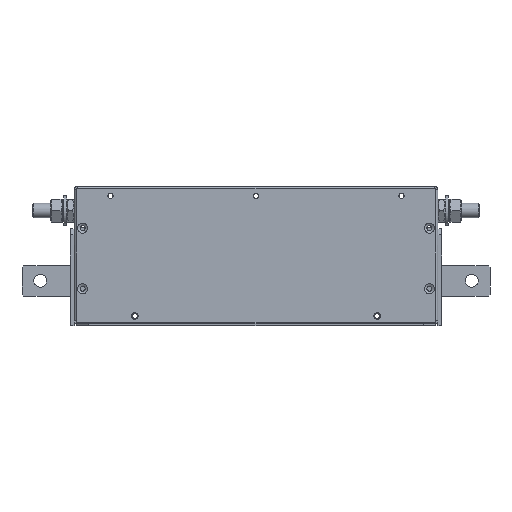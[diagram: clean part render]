
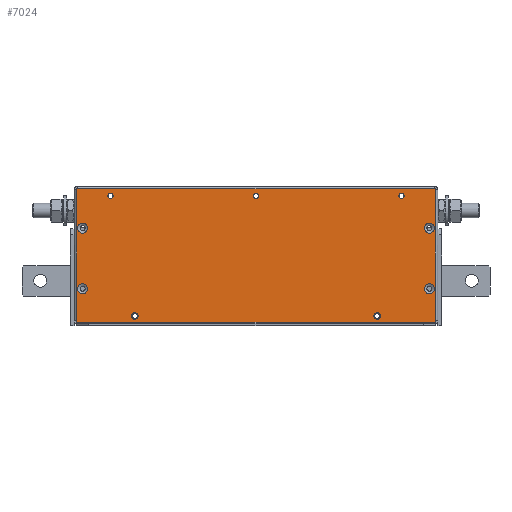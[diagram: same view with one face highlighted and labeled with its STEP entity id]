
A CAD part, front view. The second image highlights one B-rep face of the part: STEP entity #7024.
In plain terms, the highlighted planar face has unit normal (0, -1, 0).
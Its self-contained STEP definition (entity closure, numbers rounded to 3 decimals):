
#6275=CARTESIAN_POINT('',(147.1,-105.0,30.5));
#6276=VERTEX_POINT('',#6275);
#6277=CARTESIAN_POINT('',(143.0,-105.0,30.5));
#6278=DIRECTION('',(0.0,1.0,0.0));
#6279=DIRECTION('',(1.0,0.0,0.0));
#6280=AXIS2_PLACEMENT_3D('',#6277,#6278,#6279);
#6281=CIRCLE('',#6280,4.1);
#6282=EDGE_CURVE('',#6276,#6276,#6281,.T.);
#6323=CARTESIAN_POINT('',(147.1,-105.0,80.5));
#6324=VERTEX_POINT('',#6323);
#6325=CARTESIAN_POINT('',(143.0,-105.0,80.5));
#6326=DIRECTION('',(0.0,1.0,0.0));
#6327=DIRECTION('',(1.0,0.0,0.0));
#6328=AXIS2_PLACEMENT_3D('',#6325,#6326,#6327);
#6329=CIRCLE('',#6328,4.1);
#6330=EDGE_CURVE('',#6324,#6324,#6329,.T.);
#6371=CARTESIAN_POINT('',(-138.9,-105.0,30.5));
#6372=VERTEX_POINT('',#6371);
#6373=CARTESIAN_POINT('',(-143.0,-105.0,30.5));
#6374=DIRECTION('',(0.0,1.0,0.0));
#6375=DIRECTION('',(1.0,0.0,0.0));
#6376=AXIS2_PLACEMENT_3D('',#6373,#6374,#6375);
#6377=CIRCLE('',#6376,4.1);
#6378=EDGE_CURVE('',#6372,#6372,#6377,.T.);
#6419=CARTESIAN_POINT('',(-138.9,-105.0,80.5));
#6420=VERTEX_POINT('',#6419);
#6421=CARTESIAN_POINT('',(-143.0,-105.0,80.5));
#6422=DIRECTION('',(0.0,1.0,0.0));
#6423=DIRECTION('',(1.0,0.0,0.0));
#6424=AXIS2_PLACEMENT_3D('',#6421,#6422,#6423);
#6425=CIRCLE('',#6424,4.1);
#6426=EDGE_CURVE('',#6420,#6420,#6425,.T.);
#6554=CARTESIAN_POINT('',(-102.75,-105.0,8.0));
#6555=VERTEX_POINT('',#6554);
#6556=CARTESIAN_POINT('',(-100.0,-105.0,8.0));
#6557=DIRECTION('',(0.0,1.0,0.0));
#6558=DIRECTION('',(1.0,0.0,0.0));
#6559=AXIS2_PLACEMENT_3D('',#6556,#6557,#6558);
#6560=CIRCLE('',#6559,2.75);
#6561=EDGE_CURVE('',#6555,#6555,#6560,.T.);
#6582=CARTESIAN_POINT('',(-122.15,-105.0,107.0));
#6583=VERTEX_POINT('',#6582);
#6584=CARTESIAN_POINT('',(-120.0,-105.0,107.0));
#6585=DIRECTION('',(0.0,1.0,0.0));
#6586=DIRECTION('',(1.0,0.0,0.0));
#6587=AXIS2_PLACEMENT_3D('',#6584,#6585,#6586);
#6588=CIRCLE('',#6587,2.15);
#6589=EDGE_CURVE('',#6583,#6583,#6588,.T.);
#6648=CARTESIAN_POINT('',(-148.0,-105.0,2.8));
#6649=VERTEX_POINT('',#6648);
#6657=CARTESIAN_POINT('',(-148.0,-105.0,113.0));
#6658=VERTEX_POINT('',#6657);
#6659=CARTESIAN_POINT('',(-148.0,-105.0,113.0));
#6660=DIRECTION('',(0.0,0.0,-1.0));
#6661=VECTOR('',#6660,110.2);
#6662=LINE('',#6659,#6661);
#6663=EDGE_CURVE('',#6658,#6649,#6662,.T.);
#6698=CARTESIAN_POINT('',(102.75,-105.0,8.0));
#6699=VERTEX_POINT('',#6698);
#6700=CARTESIAN_POINT('',(100.0,-105.0,8.0));
#6701=DIRECTION('',(0.0,-1.0,0.0));
#6702=DIRECTION('',(-1.0,0.0,0.0));
#6703=AXIS2_PLACEMENT_3D('',#6700,#6701,#6702);
#6704=CIRCLE('',#6703,2.75);
#6705=EDGE_CURVE('',#6699,#6699,#6704,.T.);
#6726=CARTESIAN_POINT('',(122.15,-105.0,107.0));
#6727=VERTEX_POINT('',#6726);
#6728=CARTESIAN_POINT('',(120.0,-105.0,107.0));
#6729=DIRECTION('',(0.0,-1.0,0.0));
#6730=DIRECTION('',(-1.0,0.0,0.0));
#6731=AXIS2_PLACEMENT_3D('',#6728,#6729,#6730);
#6732=CIRCLE('',#6731,2.15);
#6733=EDGE_CURVE('',#6727,#6727,#6732,.T.);
#6743=CARTESIAN_POINT('',(0.0,-105.0,109.15));
#6744=VERTEX_POINT('',#6743);
#6745=CARTESIAN_POINT('',(0.0,-105.0,107.0));
#6746=DIRECTION('',(0.0,-1.0,0.0));
#6747=DIRECTION('',(-1.0,0.0,0.0));
#6748=AXIS2_PLACEMENT_3D('',#6745,#6746,#6747);
#6749=CIRCLE('',#6748,2.15);
#6750=EDGE_CURVE('',#6744,#6744,#6749,.T.);
#6828=CARTESIAN_POINT('',(148.0,-105.0,113.0));
#6829=VERTEX_POINT('',#6828);
#6836=CARTESIAN_POINT('',(148.0,-105.0,2.8));
#6837=VERTEX_POINT('',#6836);
#6838=CARTESIAN_POINT('',(148.0,-105.0,113.0));
#6839=DIRECTION('',(0.0,0.0,-1.0));
#6840=VECTOR('',#6839,110.2);
#6841=LINE('',#6838,#6840);
#6842=EDGE_CURVE('',#6829,#6837,#6841,.T.);
#6901=CARTESIAN_POINT('',(148.0,-105.0,2.8));
#6902=DIRECTION('',(-1.0,0.0,0.0));
#6903=VECTOR('',#6902,296.0);
#6904=LINE('',#6901,#6903);
#6905=EDGE_CURVE('',#6837,#6649,#6904,.T.);
#6977=CARTESIAN_POINT('',(-148.0,-105.0,113.0));
#6978=DIRECTION('',(1.0,0.0,0.0));
#6979=VECTOR('',#6978,296.0);
#6980=LINE('',#6977,#6979);
#6981=EDGE_CURVE('',#6658,#6829,#6980,.T.);
#6986=CARTESIAN_POINT('',(0.0,-105.0,113.0));
#6987=DIRECTION('',(0.0,1.0,0.0));
#6988=DIRECTION('',(0.0,0.0,1.0));
#6989=AXIS2_PLACEMENT_3D('',#6986,#6987,#6988);
#6990=PLANE('',#6989);
#6991=ORIENTED_EDGE('',*,*,#6981,.F.);
#6992=ORIENTED_EDGE('',*,*,#6663,.T.);
#6993=ORIENTED_EDGE('',*,*,#6905,.F.);
#6994=ORIENTED_EDGE('',*,*,#6842,.F.);
#6995=EDGE_LOOP('',(#6991,#6992,#6993,#6994));
#6996=FACE_OUTER_BOUND('',#6995,.T.);
#6997=ORIENTED_EDGE('',*,*,#6282,.T.);
#6998=EDGE_LOOP('',(#6997));
#6999=FACE_BOUND('',#6998,.T.);
#7000=ORIENTED_EDGE('',*,*,#6330,.T.);
#7001=EDGE_LOOP('',(#7000));
#7002=FACE_BOUND('',#7001,.T.);
#7003=ORIENTED_EDGE('',*,*,#6378,.T.);
#7004=EDGE_LOOP('',(#7003));
#7005=FACE_BOUND('',#7004,.T.);
#7006=ORIENTED_EDGE('',*,*,#6426,.T.);
#7007=EDGE_LOOP('',(#7006));
#7008=FACE_BOUND('',#7007,.T.);
#7009=ORIENTED_EDGE('',*,*,#6589,.T.);
#7010=EDGE_LOOP('',(#7009));
#7011=FACE_BOUND('',#7010,.T.);
#7012=ORIENTED_EDGE('',*,*,#6561,.T.);
#7013=EDGE_LOOP('',(#7012));
#7014=FACE_BOUND('',#7013,.T.);
#7015=ORIENTED_EDGE('',*,*,#6705,.F.);
#7016=EDGE_LOOP('',(#7015));
#7017=FACE_BOUND('',#7016,.T.);
#7018=ORIENTED_EDGE('',*,*,#6750,.F.);
#7019=EDGE_LOOP('',(#7018));
#7020=FACE_BOUND('',#7019,.T.);
#7021=ORIENTED_EDGE('',*,*,#6733,.F.);
#7022=EDGE_LOOP('',(#7021));
#7023=FACE_BOUND('',#7022,.T.);
#7024=ADVANCED_FACE('',(#6996,#6999,#7002,#7005,#7008,#7011,#7014,#7017,#7020,#7023),#6990,.F.);
